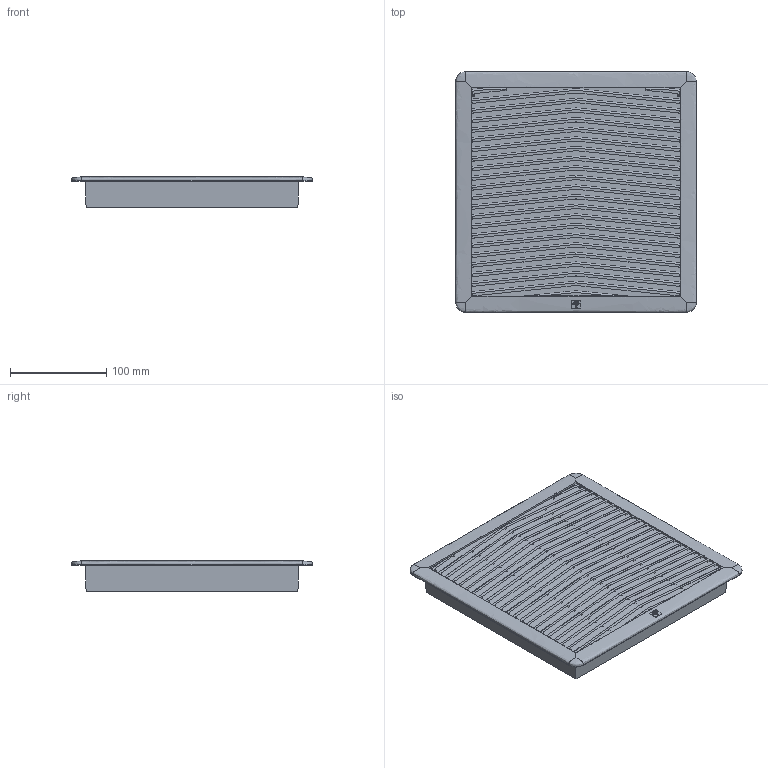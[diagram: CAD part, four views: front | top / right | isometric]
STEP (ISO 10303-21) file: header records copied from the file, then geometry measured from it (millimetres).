
FILE_DESCRIPTION (( 'STEP AP214' ), '1' );
FILE_NAME ('GF15KyG.STEP', '2023-10-17T14:02:58', ( '' ), ( '' ), 'SwSTEP 2.0', 'SolidWorks 2022', '' );
FILE_SCHEMA (( 'AUTOMOTIVE_DESIGN' ));
Length unit declared in the file: millimetre
Products named in the file (3): GF15C-7035_semplificata; GF15KyG; GF15B-7035_semplificata
Assembly tree (2 placements, depth 2):
  GF15KyG
    GF15B-7035_semplificata
    GF15C-7035_semplificata
Bounding box: 250 x 250 x 32.01 mm (x, y, z)
Volume: 1533695.1 mm3; surface area: 208192.7 mm2
Topology: 25 solids, 26 shells, 690 faces, 1826 edges, 1201 vertices
Faces by surface type: plane 535, bspline 137, cylinder 18
Entity records: 29440 total; most frequent: CARTESIAN_POINT 14155, ORIENTED_EDGE 3644, DIRECTION 2057, EDGE_CURVE 1822, VERTEX_POINT 1201, VECTOR 915, LINE 915, B_SPLINE_CURVE_WITH_KNOTS 883
